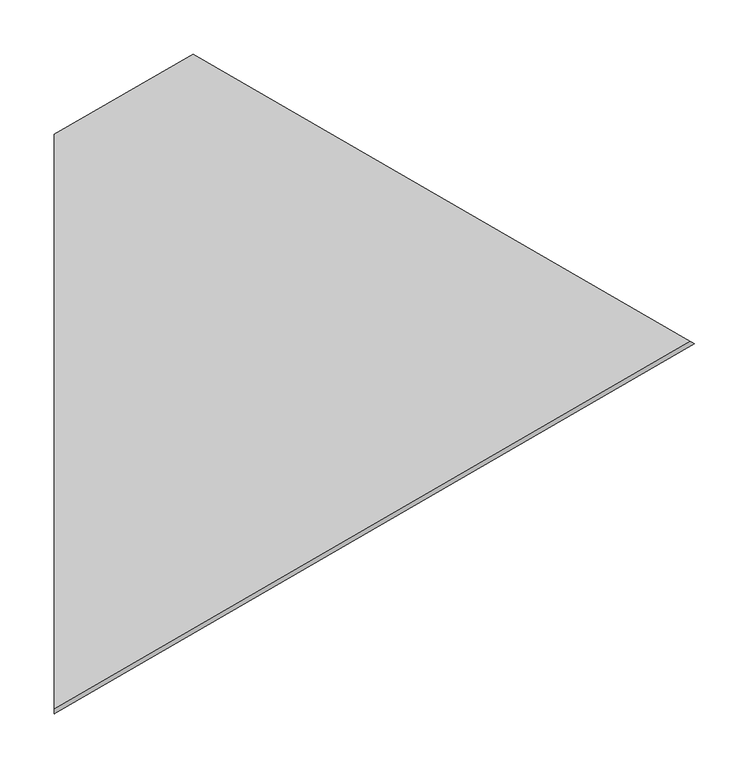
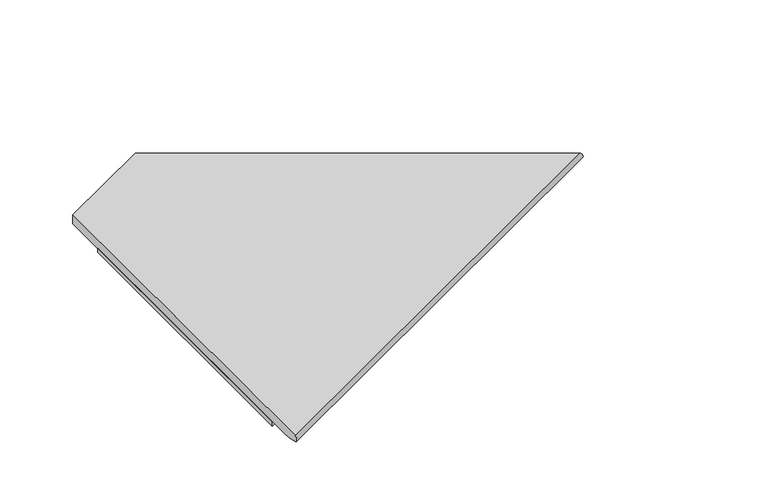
"""IFC4 building model written with IfcOpenShell, lengths in millimetres: furniture geometry, Integra - Coastal Collection - Tide Metal - System Table : Tide - 60° In-Line Table."""

import ifcopenshell
import ifcopenshell.guid

model = None  # the IFC model being written
_history = None  # IfcOwnerHistory: only IFC2X3 demands one
_inside = {}  # id of a spatial element -> (the spatial element, [elements in it])
_under = {}  # id of a project, library or spatial element -> (it, [spatial elements below it])
_declared = {}  # id of a project -> (the project, [libraries it declares])
_typed = {}  # id of a type object -> (the type object, [elements of that type])
_made_of = {}  # id of a material, layer set ... -> (it, [elements and type objects made of it])


def new_model(schema):
    """Start an empty IFC model of exactly this schema.

    Asked for "IFC4X3", IfcOpenShell would pick the latest addendum, in which some entities
    have other attributes; the version numbers below select the first issue.
    IFC2X3 requires an IfcOwnerHistory on every rooted entity: one is made here for all.
    """
    global model, _history
    if schema == "IFC4X3":
        model = ifcopenshell.file(schema_version=(4, 3, 0, 0))
    else:
        model = ifcopenshell.file(schema=schema)
    _inside.clear()
    _under.clear()
    _declared.clear()
    _typed.clear()
    _made_of.clear()
    _history = None
    if model.schema == "IFC2X3":
        org = make("IfcOrganization", Name="unknown")
        user = make(
            "IfcPersonAndOrganization",
            ThePerson=make("IfcPerson", FamilyName="unknown"),
            TheOrganization=org,
        )
        app = make(
            "IfcApplication",
            ApplicationDeveloper=org,
            Version="unknown",
            ApplicationFullName="unknown",
            ApplicationIdentifier="unknown",
        )
        _history = make(
            "IfcOwnerHistory",
            OwningUser=user,
            OwningApplication=app,
            ChangeAction="ADDED",
            CreationDate=0,
        )
    return model


def make(cls, **values):
    """One entity of the class cls with the attributes given. An attribute that is None is left unset."""
    return model.create_entity(
        cls, **{name: value for name, value in values.items() if value is not None}
    )


def rooted(cls, **values):
    """An entity with a GlobalId (a new one), such as an element, a storey or a relation."""
    return make(cls, GlobalId=ifcopenshell.guid.new(), OwnerHistory=_history, **values)


def si_unit(unit_type, name, prefix=None):
    """IfcSIUnit, for example si_unit("LENGTHUNIT", "METRE", prefix="MILLI")."""
    return make("IfcSIUnit", UnitType=unit_type, Prefix=prefix, Name=name)


def assignment(units):
    """IfcUnitAssignment: the units of a project."""
    return None if units is None else make("IfcUnitAssignment", Units=units)


def point(xyz):
    """IfcCartesianPoint."""
    return None if xyz is None else make("IfcCartesianPoint", Coordinates=xyz)


def direction(xyz):
    """IfcDirection."""
    return None if xyz is None else make("IfcDirection", DirectionRatios=xyz)


def frame(location, z_axis=None, x_axis=None):
    """IfcAxis2Placement3D, a coordinate frame: its origin and axes. An axis left out is left unset."""
    return make(
        "IfcAxis2Placement3D",
        Location=point(location),
        Axis=direction(z_axis),
        RefDirection=direction(x_axis),
    )


def origin():
    """The frame at (0, 0, 0) with its axes left unset."""
    return frame((0.0, 0.0, 0.0))


def place(relative_to, where):
    """IfcLocalPlacement: puts the frame where relative to a parent placement (None: the world)."""
    return make(
        "IfcLocalPlacement", PlacementRelTo=relative_to, RelativePlacement=where
    )


def context(
    kind, dimensions, precision=None, world=None, true_north=None, identifier=None
):
    """IfcGeometricRepresentationContext, for example the 3D "Model" context."""
    return make(
        "IfcGeometricRepresentationContext",
        ContextIdentifier=identifier,
        ContextType=kind,
        CoordinateSpaceDimension=dimensions,
        Precision=precision,
        WorldCoordinateSystem=world,
        TrueNorth=true_north,
    )


def project(units=None, contexts=None):
    """IfcProject with its units and contexts."""
    return rooted(
        "IfcProject",
        Name="project",
        RepresentationContexts=contexts,
        UnitsInContext=assignment(units),
    )


def spatial(cls, under=None, at=None, **own):
    """A site, building, storey or space (cls), placed at a placement, below another one or the project."""
    s = rooted(cls, ObjectPlacement=at, **own)
    if under is not None:
        _under.setdefault(under.id(), (under, []))[1].append(s)
    return s


def polyline(points):
    """IfcPolyline through the points."""
    return make("IfcPolyline", Points=[point(p) for p in points])


def ellipse_curve(where, semi_axis1, semi_axis2):
    """IfcEllipse in the frame where."""
    return make(
        "IfcEllipse", Position=where, SemiAxis1=semi_axis1, SemiAxis2=semi_axis2
    )


def outline(outer, holes=None, kind="AREA"):
    """IfcArbitraryClosedProfileDef: a profile drawn as a closed curve; with holes, ...WithVoids."""
    if holes is None:
        return make("IfcArbitraryClosedProfileDef", ProfileType=kind, OuterCurve=outer)
    return make(
        "IfcArbitraryProfileDefWithVoids",
        ProfileType=kind,
        OuterCurve=outer,
        InnerCurves=holes,
    )


def extrude(swept, where, along, depth):
    """IfcExtrudedAreaSolid: the profile swept, set in the frame where, extruded along a direction by depth."""
    return make(
        "IfcExtrudedAreaSolid",
        SweptArea=swept,
        Position=where,
        ExtrudedDirection=direction(along),
        Depth=depth,
    )


def shape(context_of_items, identifier, shape_type, items):
    """IfcShapeRepresentation: the items that make up one representation, for example the "Body"."""
    return make(
        "IfcShapeRepresentation",
        ContextOfItems=context_of_items,
        RepresentationIdentifier=identifier,
        RepresentationType=shape_type,
        Items=items,
    )


def source(mapping_origin, context_of_items, identifier, shape_type, items):
    """IfcRepresentationMap: a shape defined once, which mapped items show again and again."""
    return make(
        "IfcRepresentationMap",
        MappingOrigin=mapping_origin,
        MappedRepresentation=shape(context_of_items, identifier, shape_type, items),
    )


def transform(
    local_origin,
    x_axis=None,
    y_axis=None,
    z_axis=None,
    scale=None,
    scale2=None,
    scale3=None,
    uniform=True,
):
    """IfcCartesianTransformationOperator3D, or its non-uniform kind. x_axis, y_axis, z_axis: its Axis1, 2, 3."""
    if uniform:
        return make(
            "IfcCartesianTransformationOperator3D",
            Axis1=direction(x_axis),
            Axis2=direction(y_axis),
            LocalOrigin=point(local_origin),
            Scale=scale,
            Axis3=direction(z_axis),
        )
    return make(
        "IfcCartesianTransformationOperator3DnonUniform",
        Axis1=direction(x_axis),
        Axis2=direction(y_axis),
        LocalOrigin=point(local_origin),
        Scale=scale,
        Axis3=direction(z_axis),
        Scale2=scale2,
        Scale3=scale3,
    )


def mapped(mapping_source, mapping_target):
    """IfcMappedItem: shows the shape of a source again, moved by a transform."""
    return make(
        "IfcMappedItem", MappingSource=mapping_source, MappingTarget=mapping_target
    )


def made_of(thing, what):
    """Note that an element or type object is made of a material, layer set ...; save() writes the relation."""
    if what is not None:
        _made_of.setdefault(what.id(), (what, []))[1].append(thing)
    return thing


def element(
    cls,
    number,
    at=None,
    inside=None,
    cuts=None,
    type_object=None,
    material=None,
    context=None,
    identifier="Body",
    shape_type=None,
    held_by="IfcProductDefinitionShape",
    body=None,
    shapes=None,
    **own,
):
    """One element of the class cls, such as IfcWall. Its Tag is "e" and its number.

    at: its placement. inside: the storey or other place that contains it. cuts: it is an
    opening in that element (IfcRelVoidsElement). A single representation is given by context,
    identifier, shape_type and body (its items); several are given by shapes. held_by: the class
    of the entity that holds the representations. save() writes the other relations.
    """
    e = rooted(cls, Tag="e%d" % number, ObjectPlacement=at, **own)
    if body is not None:
        shapes = [shape(context, identifier, shape_type, body)]
    if shapes is not None:
        e.Representation = make(held_by, Representations=shapes)
    if inside is not None:
        _inside.setdefault(inside.id(), (inside, []))[1].append(e)
    if cuts is not None:
        rooted(
            "IfcRelVoidsElement", RelatingBuildingElement=cuts, RelatedOpeningElement=e
        )
    if type_object is not None:
        _typed.setdefault(type_object.id(), (type_object, []))[1].append(e)
    return made_of(e, material)


def aggregate(whole, parts):
    """IfcRelAggregates: a whole, such as a stair, and the parts it consists of."""
    return rooted("IfcRelAggregates", RelatingObject=whole, RelatedObjects=parts)


def save(model, path):
    """Write the relations noted so far, then the file.

    IfcRelAggregates (storeys below a building ...), IfcRelContainedInSpatialStructure (elements
    in a storey), IfcRelDefinesByType, IfcRelAssociatesMaterial and IfcRelDeclares: one each for
    every whole, place, type object, material and project.
    """
    for whole, parts in _under.values():
        aggregate(whole, parts)
    for where, things in _inside.values():
        rooted(
            "IfcRelContainedInSpatialStructure",
            RelatedElements=things,
            RelatingStructure=where,
        )
    for kind, things in _typed.values():
        rooted("IfcRelDefinesByType", RelatedObjects=things, RelatingType=kind)
    for what, things in _made_of.values():
        rooted("IfcRelAssociatesMaterial", RelatedObjects=things, RelatingMaterial=what)
    for by, libraries in _declared.values():
        rooted("IfcRelDeclares", RelatingContext=by, RelatedDefinitions=libraries)
    model.write(path)


def plane_surface(at):
    """IfcPlane: the flat surface through the origin of the frame at, square to its z axis."""
    return make("IfcPlane", Position=at)


def cylinder_surface(at, radius):
    """IfcCylindricalSurface: all points at the distance radius from the z axis of the frame at."""
    return make("IfcCylindricalSurface", Position=at, Radius=radius)


def advanced_brep(points, edges, surfaces, faces):
    """IfcAdvancedBrep: a solid bounded by faces that lie on surfaces and meet in shared edges.

    An edge is (start, end): straight between two places in points (the first is 0);
    or (start, end, curve); or (start, end, curve, False) where it runs against its curve.
    A face is (place in surfaces, loops), or (place, loops, False) where it looks against
    its surface's normal. A loop lists edges by number (the first is 1), with a minus sign
    where the edge is run from its end to its start. The first loop is the outer one.
    """
    corners = [point(p) for p in points]
    vertices = [make("IfcVertexPoint", VertexGeometry=c) for c in corners]
    made = []
    for start, end, *more in edges:
        made.append(
            make(
                "IfcEdgeCurve",
                EdgeStart=vertices[start],
                EdgeEnd=vertices[end],
                EdgeGeometry=more[0] if more else make("IfcPolyline", Points=[corners[start], corners[end]]),
                SameSense=more[1] if len(more) > 1 else True,
            )
        )
    hull = []
    for where, loops, *sense in faces:
        bounds = []
        for j, loop in enumerate(loops):
            ring = [make("IfcOrientedEdge", EdgeElement=made[abs(k) - 1], Orientation=k > 0) for k in loop]
            bounds.append(
                make(
                    "IfcFaceOuterBound" if j == 0 else "IfcFaceBound",
                    Bound=make("IfcEdgeLoop", EdgeList=ring),
                    Orientation=True,
                )
            )
        hull.append(make("IfcAdvancedFace", Bounds=bounds, FaceSurface=surfaces[where], SameSense=sense[0] if sense else True))
    return make("IfcAdvancedBrep", Outer=make("IfcClosedShell", CfsFaces=hull))


def furniture_d97fed5a(model_context):
    return source(origin(), model_context, "Body", "SolidModel", [
        extrude(outline(polyline([(178.6586978, 311.1897248), (538.9966724, 103.1484981), (0.0, -208.0412828), (0.0, 208.0411065), (178.6586978, 311.1897248)])), frame((0.0, 0.0, 358.5393349), z_axis=(0.0, 0.0, 1.0), x_axis=(1.0, 0.0, 0.0)), (0.0, 0.0, 1.0), 6.35),
        advanced_brep(
        [(0.0, -262.1250865, 377.589341), (585.8345398, 76.1066428, 377.589341), (127.8585912, 340.51918, 377.589341), (0.0, 266.6999879, 377.589341), (587.5152608, 75.136278, 370.0395379), (0.0, -264.0658159, 370.0395379), (0.0, -237.3521364, 364.8893349), (564.3805357, 88.4931178, 364.8893349), (0.0, 266.6999879, 364.8893349), (127.8585912, 340.51918, 364.8893349)],
        [
            (0, 1),
            (1, 2),
            (2, 3),
            (3, 0),
            (4, 5),
            (5, 6, ellipse_curve(frame((0.0, -237.3521364, 419.4250596), z_axis=(1.0, 0.0, 0.0), x_axis=(0.0, -1.0, 0.0)), 62.9724306, 54.5357246)),
            (6, 7),
            (7, 4, ellipse_curve(frame((564.3805357, 88.4931178, 419.4250596), z_axis=(-0.5000000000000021, -0.8660254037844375, 0.0), x_axis=(-0.8660254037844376, 0.5000000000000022, 0.0)), 62.9724306, 54.5357246)),
            (0, 5, ellipse_curve(frame((0.0, -262.1250865, 373.6273602), z_axis=(1.0, 0.0, 0.0), x_axis=(0.0, -1.0, 0.0)), 4.5749014, 3.9619808)),
            (4, 1, ellipse_curve(frame((585.8345398, 76.1066428, 373.6273602), z_axis=(-0.5000000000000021, -0.8660254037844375, 0.0), x_axis=(-0.8660254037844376, 0.5000000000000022, 0.0)), 4.5749014, 3.9619808)),
            (3, 8),
            (8, 6),
            (7, 9),
            (9, 2),
            (8, 9),
        ],
        [
            plane_surface(frame((-20.0160549, -250.5688119, 377.589341), z_axis=(0.0, 0.0, 1.0000000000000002), x_axis=(0.8660254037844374, -0.5000000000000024, 0.0))),
            cylinder_surface(frame((-12.7079925, -244.6890992, 419.4250596), z_axis=(-0.8660254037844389, -0.49999999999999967, 0.0), x_axis=(0.49999999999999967, -0.8660254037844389, 0.0)), 54.5357246),
            cylinder_surface(frame((-1.9809904, -263.2688119, 373.6273602), z_axis=(-0.8660254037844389, -0.49999999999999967, 0.0), x_axis=(0.49999999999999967, -0.8660254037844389, 0.0)), 3.9619808),
            plane_surface(frame((0.0, -287.5789969, 417.6924672), z_axis=(-1.0, 0.0, 0.0), x_axis=(0.0, 0.0, -1.0))),
            plane_surface(frame((539.7144668, 102.7340793, 417.6924672), z_axis=(0.5000000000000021, 0.8660254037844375, 0.0), x_axis=(0.0, 0.0, -1.0))),
            plane_surface(frame((0.0, -237.3521364, 364.8893349), z_axis=(0.0, 0.0, -1.0), x_axis=(0.0, 1.0, 0.0))),
            plane_surface(frame((127.8585912, 340.51918, 377.589341), z_axis=(-0.4999999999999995, 0.8660254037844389, 0.0), x_axis=(0.0, 0.0, -1.0))),
        ],
        [
            (0, [[1, 2, 3, 4]]),
            (1, [[5, 6, 7, 8]]),
            (2, [[-1, 9, -5, 10]]),
            (3, [[-4, 11, 12, -6, -9]]),
            (4, [[-2, -10, -8, 13, 14]]),
            (5, [[15, -13, -7, -12]]),
            (6, [[-3, -14, -15, -11]]),
        ],
    ),
    ])


if __name__ == "__main__":
    model = new_model("IFC4")
    model_context = context("Model", 3, world=origin())
    ifc_project = project(units=[si_unit("LENGTHUNIT", "METRE", prefix="MILLI")], contexts=[model_context])
    site = spatial("IfcSite", under=ifc_project)
    building = spatial("IfcBuilding", under=site)
    placement = place(None, origin())
    furniture_shape = furniture_d97fed5a(model_context)
    element("IfcFurniture", 1, ObjectType="Integra - Coastal Collection - Tide Metal - System Table : Tide - 60° In-Line Table", at=placement, inside=building, context=model_context, shape_type="MappedRepresentation", body=[
        mapped(furniture_shape, transform((0.0, 0.0, 0.0), x_axis=(1.0, 0.0, 0.0), y_axis=(0.0, 1.0, 0.0), z_axis=(0.0, 0.0, 1.0))),
    ])
    save(model, "model.ifc")
